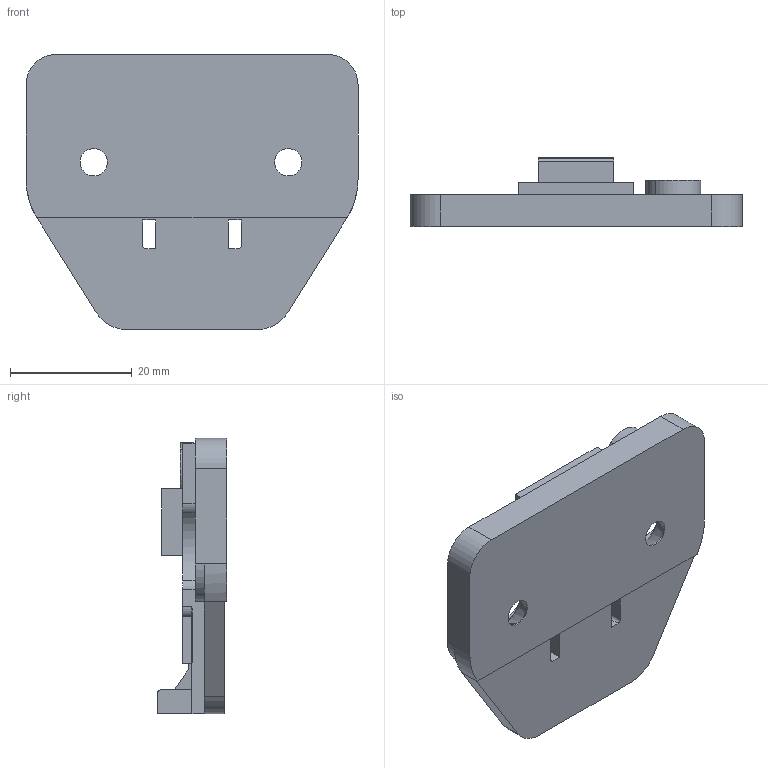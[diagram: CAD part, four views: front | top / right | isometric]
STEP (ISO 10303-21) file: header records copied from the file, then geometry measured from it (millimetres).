
FILE_DESCRIPTION (( 'STEP AP203' ), '1' );
FILE_NAME ('89T20TQ-DTC3D.STEP', '2021-04-13T01:02:31', ( '' ), ( '' ), 'SwSTEP 2.0', 'SolidWorks 2018', '' );
FILE_SCHEMA (( 'CONFIG_CONTROL_DESIGN' ));
Length unit declared in the file: millimetre
Products named in the file (1): 89T20TQ-DTC3D
Bounding box: 54.6 x 11.4 x 45.3 mm (x, y, z)
Volume: 12007.2 mm3; surface area: 6154.4 mm2
Topology: 1 solids, 1 shells, 104 faces, 294 edges, 194 vertices
Faces by surface type: plane 62, cylinder 32, torus 4, cone 4, bspline 2
Entity records: 3479 total; most frequent: CARTESIAN_POINT 619, ORIENTED_EDGE 588, DIRECTION 586, EDGE_CURVE 294, VECTOR 200, LINE 200, VERTEX_POINT 194, AXIS2_PLACEMENT_3D 193
